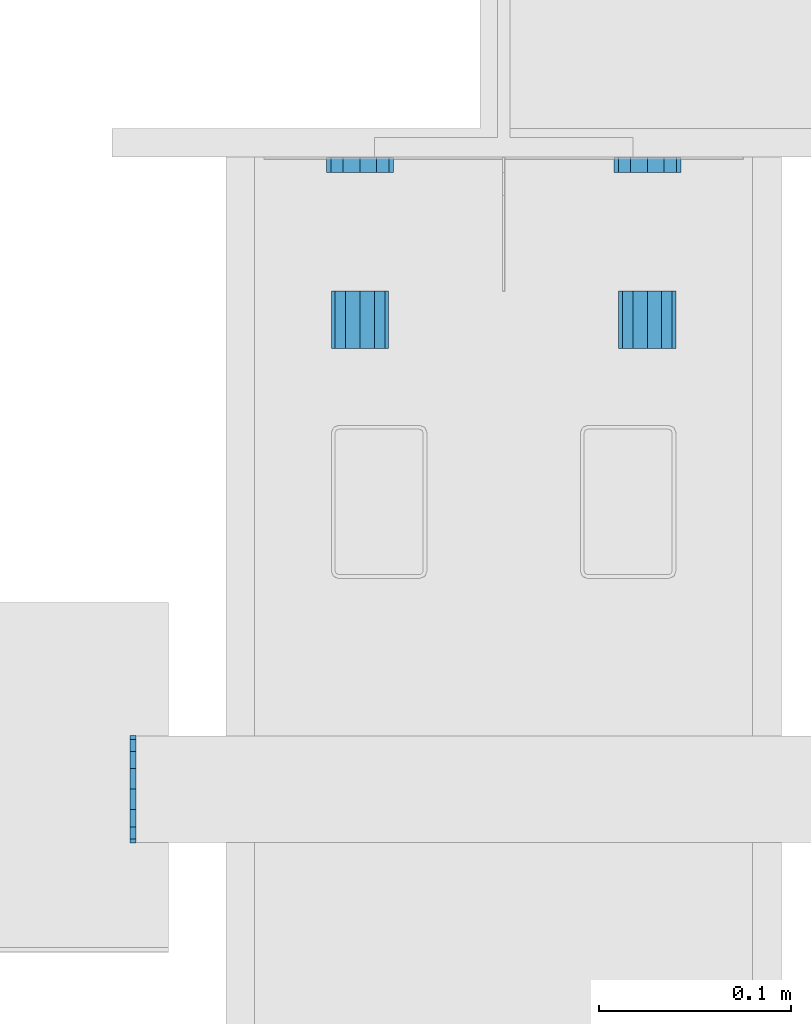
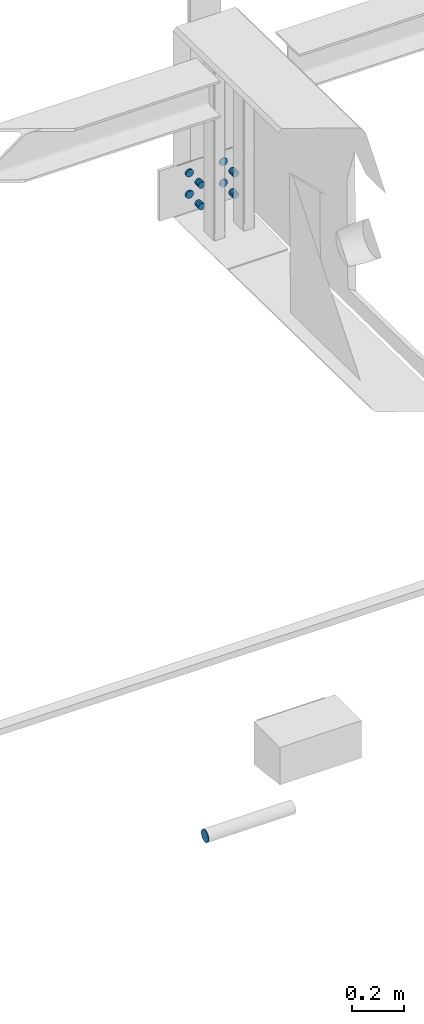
# One storey, part 102 of 186: 9 beams.
"""IFC4X3_ADD2 building model written with IfcOpenShell, lengths in millimetres."""

from ifc_helpers import new_model, si_unit, direction, frame, origin_with_axes, place, context, subcontext, project, spatial, indexed_curve, outline, extrude, material, element, save


model = new_model("IFC4X3_ADD2")

# Units and contexts
model_context = context("Model", 3, precision=1e-05, world=origin_with_axes(), true_north=direction((0.0, 1.0)))
body_context = subcontext(model_context, "Body", "Model", "MODEL_VIEW")
ifc_project = project(units=[si_unit("LENGTHUNIT", "METRE", prefix="MILLI"), si_unit("AREAUNIT", "SQUARE_METRE"), si_unit("VOLUMEUNIT", "CUBIC_METRE"), si_unit("PLANEANGLEUNIT", "RADIAN"), si_unit("TIMEUNIT", "SECOND"), si_unit("MASSUNIT", "GRAM")], contexts=[model_context])

# Site, building, storey
site_placement = place(None, origin_with_axes())
site = spatial("IfcSite", under=ifc_project, at=site_placement, Name="Site", CompositionType="ELEMENT")
building_placement = place(site_placement, origin_with_axes())
building = spatial("IfcBuilding", under=site, at=building_placement, Name="IFC Building Story")
storey_placement = place(building_placement, frame((0.0, 0.0, 4370.0), z_axis=(0.0, 0.0, 1.0), x_axis=(1.0, 0.0, 0.0)))
storey = spatial("IfcBuildingStorey", under=building, at=storey_placement, Name="ETAGE 10 (1)", Elevation=4370.0)

# Beams
ifc_material_1 = material(Name="STEEL/Accessory 22919")
beam_placement = place(storey_placement, frame((21964.18920843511, 17649.9997253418, 1168.305999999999), z_axis=(-1.0, 0.0, 0.0), x_axis=(0.0, 0.1950903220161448, 0.9807852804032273)))
element("IfcBeam", 1, at=beam_placement, inside=storey, material=ifc_material_1, Name="TA4", ObjectType="D56", context=body_context, shape_type="SweptSolid", body=[
    extrude(outline(indexed_curve([(23.28114914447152, 15.55596652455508), (27.46198785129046, 5.462529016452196), (27.46198785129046, -5.462529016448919), (23.28114914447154, -15.55596652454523), (15.55596652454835, -23.28114914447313), (5.462529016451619, -27.46198785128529), (-5.462529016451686, -27.46198785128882), (-15.55596652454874, -23.28114914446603), (-23.2811491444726, -15.55596652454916), (-27.46198785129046, -5.462529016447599), (-27.46198785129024, 5.462529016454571), (-23.28114914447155, 15.55596652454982), (-15.55596652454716, 23.28114914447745), (-5.462529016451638, 27.46198785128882), (5.462529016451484, 27.46198785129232), (15.55596652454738, 23.28114914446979), (23.28114914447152, 15.55596652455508)])), origin_with_axes(), (0.0, 0.0, 1.0), 3.000000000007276),
])
ifc_material_2 = material(Name="STEEL/Accessory_Hole_Concrete 8616")
for number, where, z_axis, x_axis, name in (
    (2, (22231.189, 17979.9989318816, 4030.000419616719), (0.0, -1.0, 0.0), (-0.2588190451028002, 0.0, -0.9659258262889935), "ZW9"),
    (3, (22081.189, 17979.9989318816, 4030.000419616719), (0.0, -1.0, 0.0), (-0.2588190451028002, 0.0, -0.9659258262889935), "ZW9"),
    (4, (22081.189, 17979.9989318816, 3930.00041961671), (0.0, -1.0, 0.0), (-0.2588190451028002, 0.0, -0.9659258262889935), "ZW9"),
    (5, (22231.189, 17979.9989318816, 3930.000419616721), (0.0, -1.0, 0.0), (-0.2588190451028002, 0.0, -0.9659258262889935), "ZW9"),
):
    element("IfcBeam", number, at=place(storey_placement, frame(where, z_axis=z_axis, x_axis=x_axis)), inside=storey, material=ifc_material_2, Name=name, ObjectType="D35", context=body_context, shape_type="SweptSolid", body=[
        extrude(outline(indexed_curve([(-12.37436867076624, -12.37436867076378), (-16.90370196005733, -4.529333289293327), (-16.90370196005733, 4.529333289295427), (-12.37436867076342, 12.37436867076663), (-4.52933328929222, 16.90370196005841), (4.529333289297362, 16.90370196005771), (12.374368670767, 12.37436867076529), (16.90370196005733, 4.529333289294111), (16.90370196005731, -4.529333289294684), (12.37436867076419, -12.37436867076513), (4.529333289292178, -16.90370196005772), (-4.529333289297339, -16.90370196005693), (-12.37436867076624, -12.37436867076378)])), origin_with_axes(), (0.0, 0.0, 1.0), 8.0),
    ])
ifc_material_3 = material(Name="STEEL/Accessory")
for number, where, z_axis, x_axis, name in (
    (6, (22231.189, 17909.9989318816, 4030.000419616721), (0.0, -1.0, 0.0), (-0.9659258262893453, 0.0, -0.2588190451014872), "SD12"),
    (7, (22081.1890000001, 17909.9989318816, 4030.00041961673), (0.0, -1.0, 0.0), (-0.9659258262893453, 0.0, -0.2588190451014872), "SD12"),
    (8, (22231.189, 17909.9989318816, 3930.000419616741), (0.0, -1.0, 0.0), (0.9659258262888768, 0.0, 0.2588190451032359), "SD12"),
    (9, (22081.1890000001, 17909.9989318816, 3930.000419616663), (0.0, -1.0, 0.0), (-0.9659258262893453, 0.0, -0.2588190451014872), "SD12"),
):
    element("IfcBeam", number, at=place(storey_placement, frame(where, z_axis=z_axis, x_axis=x_axis)), inside=storey, material=ifc_material_3, Name=name, ObjectType="D30", context=body_context, shape_type="SweptSolid", body=[
        extrude(outline(indexed_curve([(10.60660171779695, 10.60660171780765), (14.48888739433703, 3.882285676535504), (14.48888739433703, -3.882285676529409), (10.60660171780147, -10.60660171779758), (3.882285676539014, -14.48888739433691), (-3.882285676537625, -14.48888739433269), (-10.60660171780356, -10.60660171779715), (-14.48888739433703, -3.882285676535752), (-14.48888739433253, 3.882285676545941), (-10.60660171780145, 10.60660171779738), (-3.882285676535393, 14.48888739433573), (3.882285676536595, 14.48888739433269), (10.60660171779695, 10.60660171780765)])), origin_with_axes(), (0.0, 0.0, 1.0), 30.0),
    ])

save(model, "model.ifc")
